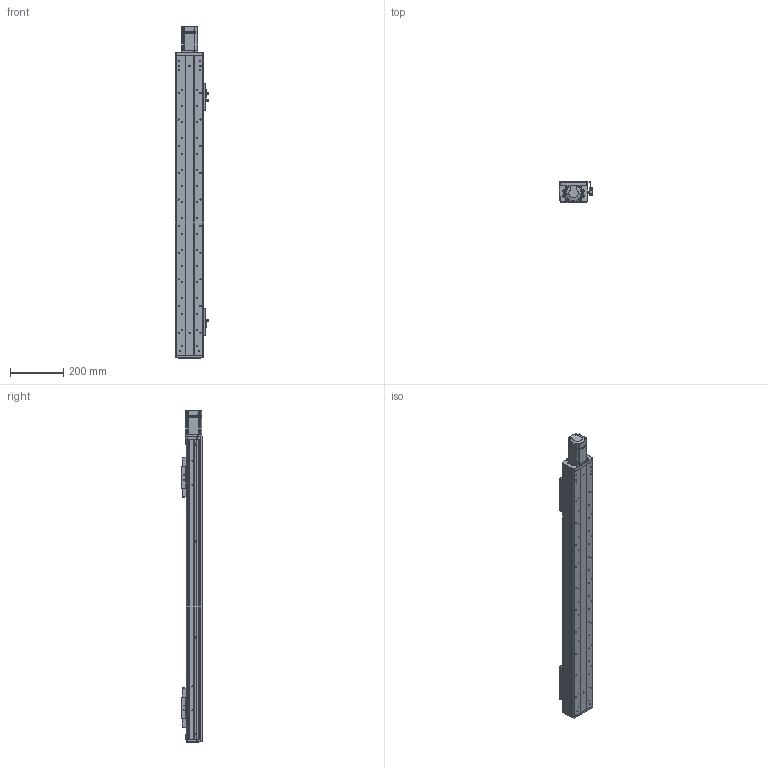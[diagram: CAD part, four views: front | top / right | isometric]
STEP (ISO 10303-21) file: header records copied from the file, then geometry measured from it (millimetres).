
FILE_DESCRIPTION (( 'STEP AP203' ), '1' );
FILE_NAME ('RY100FS-L1610-300-MK(15Ë«¹ì).SLDASM_850.step', '2022-06-22T07:50:18', ( '' ), ( '' ), 'SwSTEP 2.0', 'SolidWorks 2016', '' );
FILE_SCHEMA (( 'CONFIG_CONTROL_DESIGN' ));
Length unit declared in the file: millimetre
Products named in the file (17): RY100FS-300-MK15絳寢倰第奻裔啣_850; RY100FS-15絳寢萇儂假蚾啣(200W PCD70 M4); 侂狟200W萇儂; RY100FS-双轨螺母座(16丝杆）; RY100FS-双轨铝滑块(优力胶上板）; RY100F-詩湍揤踡輸; RY100FS-L1610-300-MK(15邧寢).SLDASM_850; RY100F-綴裔啣; 覜茼ん672; RY100F-防尘盖板(优力胶轮); RY80俋离覜茼え; RY100FS-300-MK15絳寢倰第菁釱_850; 672嫖萇羲壽假蚾釱; 滅袉蝶14-24; 滅袉蝶14-35; RY100FS-300-MK15邧寢祥凄詩湍_850; 1
Assembly tree (27 placements, depth 3):
  RY100FS-L1610-300-MK(15邧寢).SLDASM_850
    RY100FS-300-MK15絳寢倰第菁釱_850
    RY100FS-300-MK15絳寢倰第奻裔啣_850  x2
    RY100FS-300-MK15邧寢祥凄詩湍_850
    侂狟200W萇儂
      1
    RY100F-綴裔啣
    RY100FS-双轨螺母座(16丝杆）  x2
    672嫖萇羲壽假蚾釱  x2
    覜茼ん672  x3
    RY100F-詩湍揤踡輸  x2
    RY100FS-15絳寢萇儂假蚾啣(200W PCD70 M4)
    滅袉蝶14-24  x2
    滅袉蝶14-35
    RY100FS-双轨铝滑块(优力胶上板）  x2
    RY80俋离覜茼え  x3
    RY100F-防尘盖板(优力胶轮)  x2
Bounding box: 126.2 x 78.5 x 1246 mm (x, y, z)
Volume: 2898558.4 mm3; surface area: 1175103 mm2
Topology: 26 solids, 26 shells, 2555 faces, 7009 edges, 4517 vertices
Faces by surface type: plane 1164, cylinder 1138, cone 228, bspline 25
Entity records: 60088 total; most frequent: CARTESIAN_POINT 13072, ORIENTED_EDGE 9404, DIRECTION 9351, EDGE_CURVE 4702, AXIS2_PLACEMENT_3D 3288, VERTEX_POINT 3091, VECTOR 2775, LINE 2775
